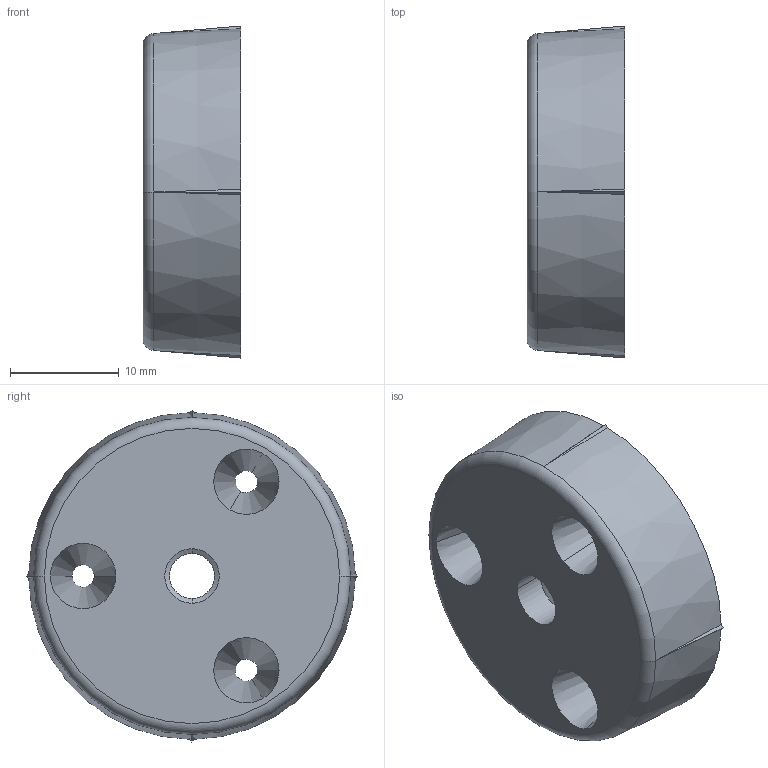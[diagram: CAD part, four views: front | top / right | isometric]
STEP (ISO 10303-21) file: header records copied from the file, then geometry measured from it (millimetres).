
FILE_DESCRIPTION(('Creo Elements/Direct Modeling STEP Export'),'2;1');
FILE_NAME('20130810_OL-B5.stp','2013-09-19T11:32:06',(''),(''),'Creo Elements/Direct Modeling STEP processor for AP214 (Solid Model)','Creo Elements/Direct Modeling 18.1B 29-Sep-2012 (C) Parametric Technology GmbH','');
FILE_SCHEMA(('AUTOMOTIVE_DESIGN { 1 0 10303 214 1 1 1 1 }'));
Length unit declared in the file: millimetre
Products named in the file (2): OL-B5_本体; OL-B5
Assembly tree (1 placements, depth 2):
  OL-B5
    OL-B5_本体
Bounding box: 9 x 30.5 x 30.5 mm (x, y, z)
Volume: 5542.9 mm3; surface area: 2617 mm2
Topology: 1 solids, 1 shells, 109 faces, 307 edges, 203 vertices
Faces by surface type: cylinder 47, plane 46, cone 14, torus 2
Entity records: 3660 total; most frequent: CARTESIAN_POINT 800, ORIENTED_EDGE 614, DIRECTION 562, EDGE_CURVE 307, AXIS2_PLACEMENT_3D 215, VERTEX_POINT 203, VECTOR 132, LINE 132
